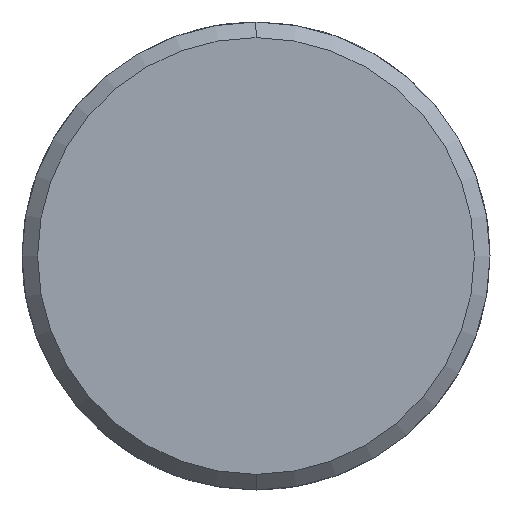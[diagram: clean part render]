
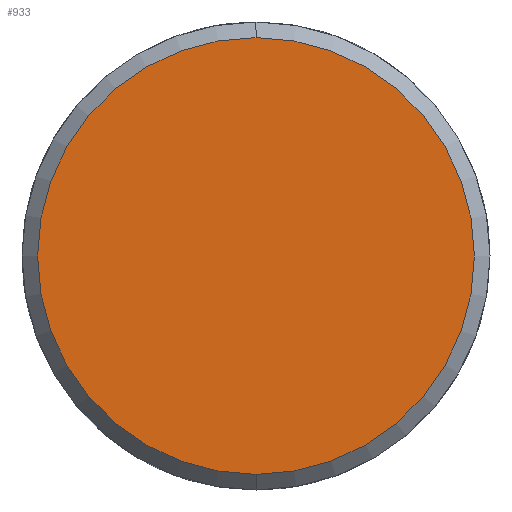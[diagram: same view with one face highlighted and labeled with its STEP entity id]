
A CAD part, left-side view. The second image highlights one B-rep face of the part: STEP entity #933.
In plain terms, the highlighted planar face has unit normal (-1, 0, 0).
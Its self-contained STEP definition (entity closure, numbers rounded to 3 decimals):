
#865=CARTESIAN_POINT('Vertex',(-5.,0.,-14.)) ;
#868=CARTESIAN_POINT('Axis2P3D Location',(-5.,0.,0.)) ;
#872=CARTESIAN_POINT('Vertex',(-5.,14.,0.)) ;
#875=CARTESIAN_POINT('Axis2P3D Location',(-5.,0.,0.)) ;
#879=CARTESIAN_POINT('Vertex',(-5.,0.,14.)) ;
#901=CARTESIAN_POINT('Axis2P3D Location',(-5.,0.,0.)) ;
#905=CARTESIAN_POINT('Vertex',(-5.,-14.,0.)) ;
#908=CARTESIAN_POINT('Axis2P3D Location',(-5.,0.,0.)) ;
#922=CARTESIAN_POINT('Axis2P3D Location',(-5.,0.,0.)) ;
#869=DIRECTION('Axis2P3D Direction',(1.,0.,-0.)) ;
#876=DIRECTION('Axis2P3D Direction',(1.,0.,-0.)) ;
#902=DIRECTION('Axis2P3D Direction',(1.,0.,-0.)) ;
#909=DIRECTION('Axis2P3D Direction',(1.,0.,-0.)) ;
#923=DIRECTION('Axis2P3D Direction',(1.,0.,-0.)) ;
#924=DIRECTION('Axis2P3D XDirection',(-0.,0.,-1.)) ;
#870=AXIS2_PLACEMENT_3D('Circle Axis2P3D',#868,#869,$) ;
#877=AXIS2_PLACEMENT_3D('Circle Axis2P3D',#875,#876,$) ;
#903=AXIS2_PLACEMENT_3D('Circle Axis2P3D',#901,#902,$) ;
#910=AXIS2_PLACEMENT_3D('Circle Axis2P3D',#908,#909,$) ;
#925=AXIS2_PLACEMENT_3D('Plane Axis2P3D',#922,#923,#924) ;
#928=ORIENTED_EDGE('',*,*,#874,.F.) ;
#929=ORIENTED_EDGE('',*,*,#912,.F.) ;
#930=ORIENTED_EDGE('',*,*,#907,.F.) ;
#931=ORIENTED_EDGE('',*,*,#881,.F.) ;
#933=ADVANCED_FACE('351-18X46X70',(#932),#926,.F.) ;
#871=CIRCLE('generated circle',#870,14.) ;
#878=CIRCLE('generated circle',#877,14.) ;
#904=CIRCLE('generated circle',#903,14.) ;
#911=CIRCLE('generated circle',#910,14.) ;
#874=EDGE_CURVE('',#866,#873,#871,.T.) ;
#881=EDGE_CURVE('',#873,#880,#878,.T.) ;
#907=EDGE_CURVE('',#880,#906,#904,.T.) ;
#912=EDGE_CURVE('',#906,#866,#911,.T.) ;
#927=EDGE_LOOP('',(#928,#929,#930,#931)) ;
#932=FACE_OUTER_BOUND('',#927,.T.) ;
#926=PLANE('Plane',#925) ;
#866=VERTEX_POINT('',#865) ;
#873=VERTEX_POINT('',#872) ;
#880=VERTEX_POINT('',#879) ;
#906=VERTEX_POINT('',#905) ;
